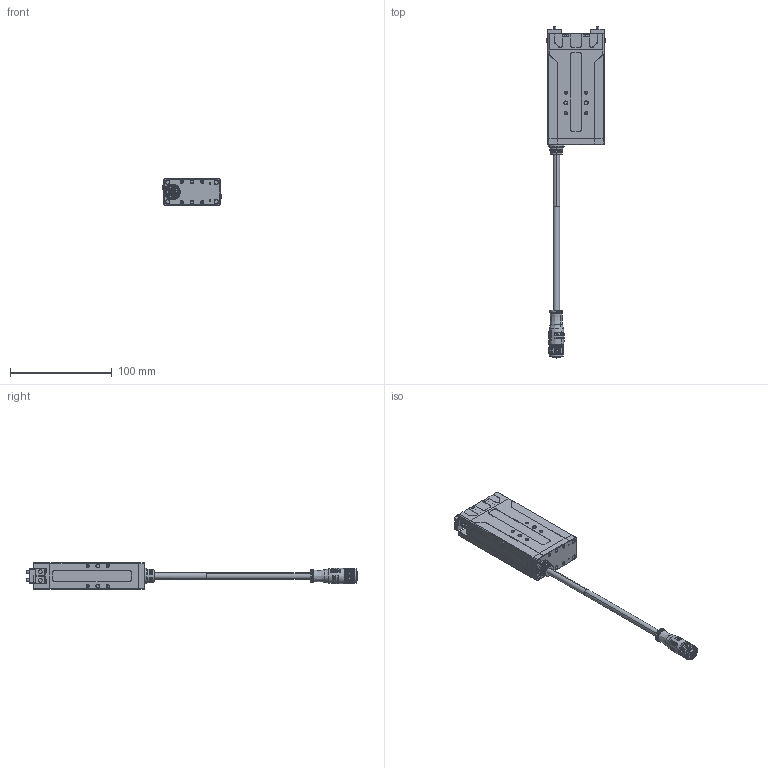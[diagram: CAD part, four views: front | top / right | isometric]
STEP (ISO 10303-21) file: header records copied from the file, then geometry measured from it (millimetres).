
FILE_DESCRIPTION (( 'STEP AP214' ), '1' );
FILE_NAME ('PGE-15-26-W-B.STEP', '2023-07-19T03:46:11', ( '' ), ( '' ), 'SwSTEP 2.0', 'SolidWorks 2020', '' );
FILE_SCHEMA (( 'AUTOMOTIVE_DESIGN' ));
Length unit declared in the file: millimetre
Products named in the file (3): PGE5-忒硌價釱; 菁堤褲; PGE-15-26-W-B
Assembly tree (3 placements, depth 2):
  PGE-15-26-W-B
    菁堤褲
    PGE5-忒硌價釱  x2
Bounding box: 58.4 x 326 x 26 mm (x, y, z)
Volume: 8242.9 mm3; surface area: 44223.5 mm2
Topology: 4 solids, 28 shells, 1677 faces, 4060 edges, 2512 vertices
Faces by surface type: plane 683, cylinder 410, cone 351, bspline 219, torus 13, sphere 1
Full cylindrical faces by diameter (mm): 11.1 x3
Entity records: 90464 total; most frequent: CARTESIAN_POINT 38826, ORIENTED_EDGE 7458, DIRECTION 6500, EDGE_CURVE 3733, AXIS2_PLACEMENT_3D 2357, VERTEX_POINT 2350, VECTOR 1786, LINE 1786
